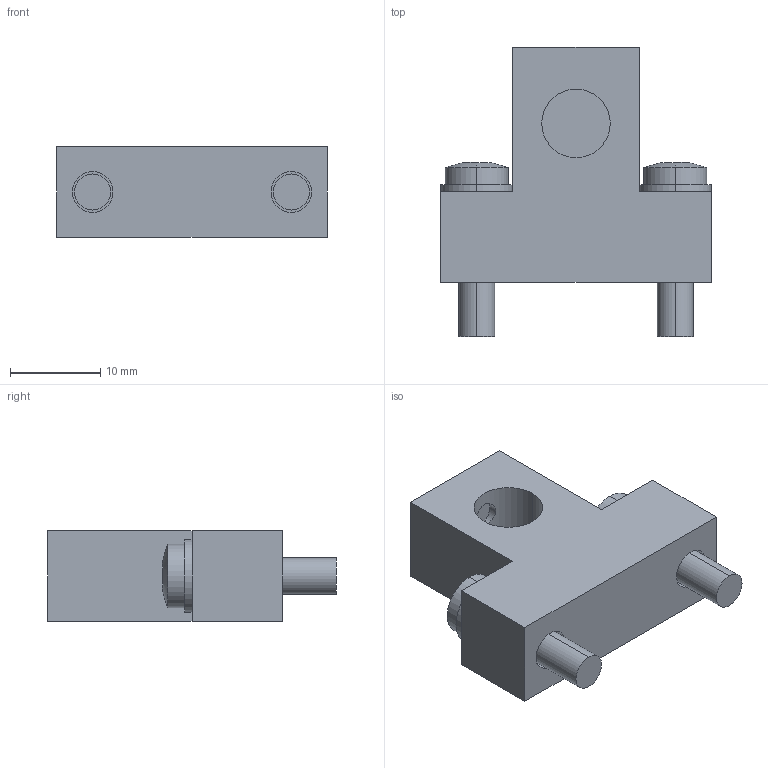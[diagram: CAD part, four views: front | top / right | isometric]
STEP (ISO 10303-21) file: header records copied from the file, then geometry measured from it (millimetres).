
FILE_DESCRIPTION (( 'STEP AP203' ), '1' );
FILE_NAME ('ER-ABH.STEP', '2005-09-09T03:36:46', ( ' ' ), ( ' ' ), 'SwSTEP 2.0', 'SolidWorks 2004073', '' );
FILE_SCHEMA (( 'CONFIG_CONTROL_DESIGN' ));
Length unit declared in the file: millimetre
Products named in the file (1): ER-ABH
Bounding box: 30 x 32 x 10 mm (x, y, z)
Volume: 5221.4 mm3; surface area: 3415.3 mm2
Topology: 4 solids, 4 shells, 66 faces, 148 edges, 96 vertices
Faces by surface type: plane 40, cylinder 22, sphere 4
Entity records: 1979 total; most frequent: CARTESIAN_POINT 365, DIRECTION 338, ORIENTED_EDGE 296, EDGE_CURVE 148, AXIS2_PLACEMENT_3D 125, VERTEX_POINT 96, VECTOR 88, LINE 88
